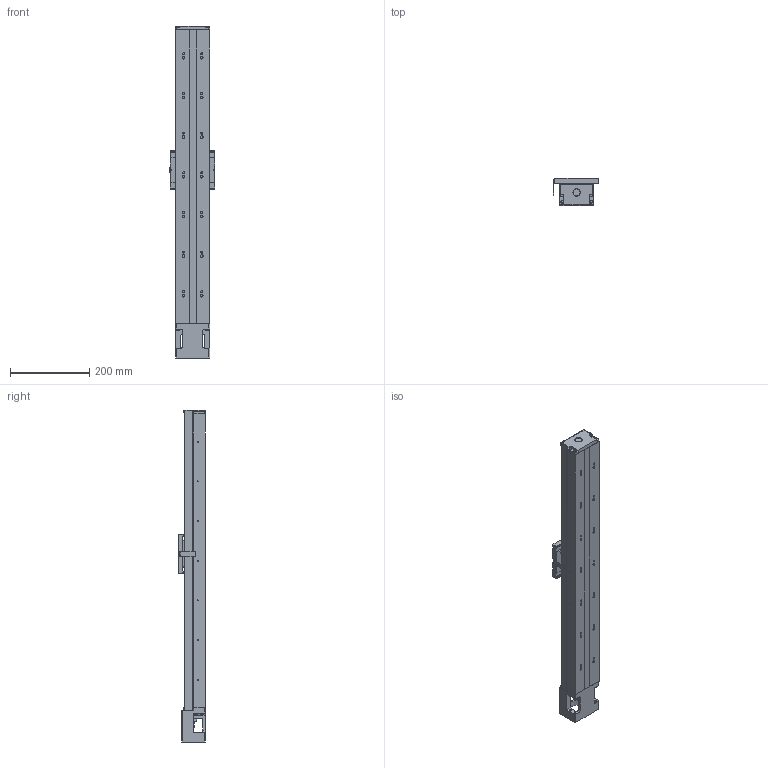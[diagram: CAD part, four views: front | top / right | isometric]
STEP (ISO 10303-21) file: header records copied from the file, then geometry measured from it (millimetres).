
FILE_DESCRIPTION (( 'STEP AP203' ), '1' );
FILE_NAME ('GKAC4686-590-12N-P20-CXXXX-網站用圖.STEP', '2023-04-07T05:47:25', ( '' ), ( '' ), 'SwSTEP 2.0', 'SolidWorks 2019', '' );
FILE_SCHEMA (( 'CONFIG_CONTROL_DESIGN' ));
Length unit declared in the file: millimetre
Products named in the file (3): GKAC4686-590-12N-P20-CXXXX-網站用圖; Group2^GKAC4686-590-12N-P20-CXXXX-網站用圖_defeature_GMT; Group1^GKAC4686-590-12N-P20-CXXXX-網站用圖_defeature_GMT
Assembly tree (2 placements, depth 2):
  GKAC4686-590-12N-P20-CXXXX-網站用圖
    Group1^GKAC4686-590-12N-P20-CXXXX-網站用圖_defeature_GMT
    Group2^GKAC4686-590-12N-P20-CXXXX-網站用圖_defeature_GMT
Bounding box: 115.2 x 68 x 837 mm (x, y, z)
Volume: 2034939.7 mm3; surface area: 618051.5 mm2
Topology: 29 solids, 29 shells, 2821 faces, 7370 edges, 4624 vertices
Faces by surface type: plane 1109, cylinder 858, cone 447, torus 190, bspline 163, sphere 54
Entity records: 96583 total; most frequent: CARTESIAN_POINT 27044, DIRECTION 14713, ORIENTED_EDGE 14576, EDGE_CURVE 7288, AXIS2_PLACEMENT_3D 5575, VERTEX_POINT 4621, LINE 3563, VECTOR 3563
